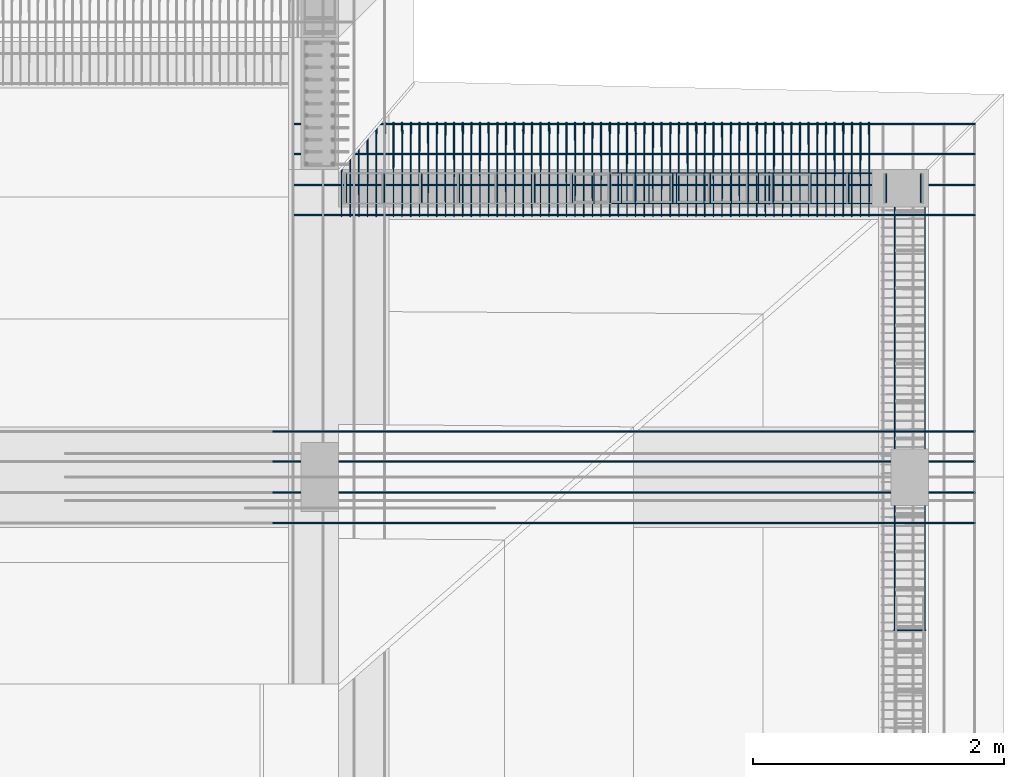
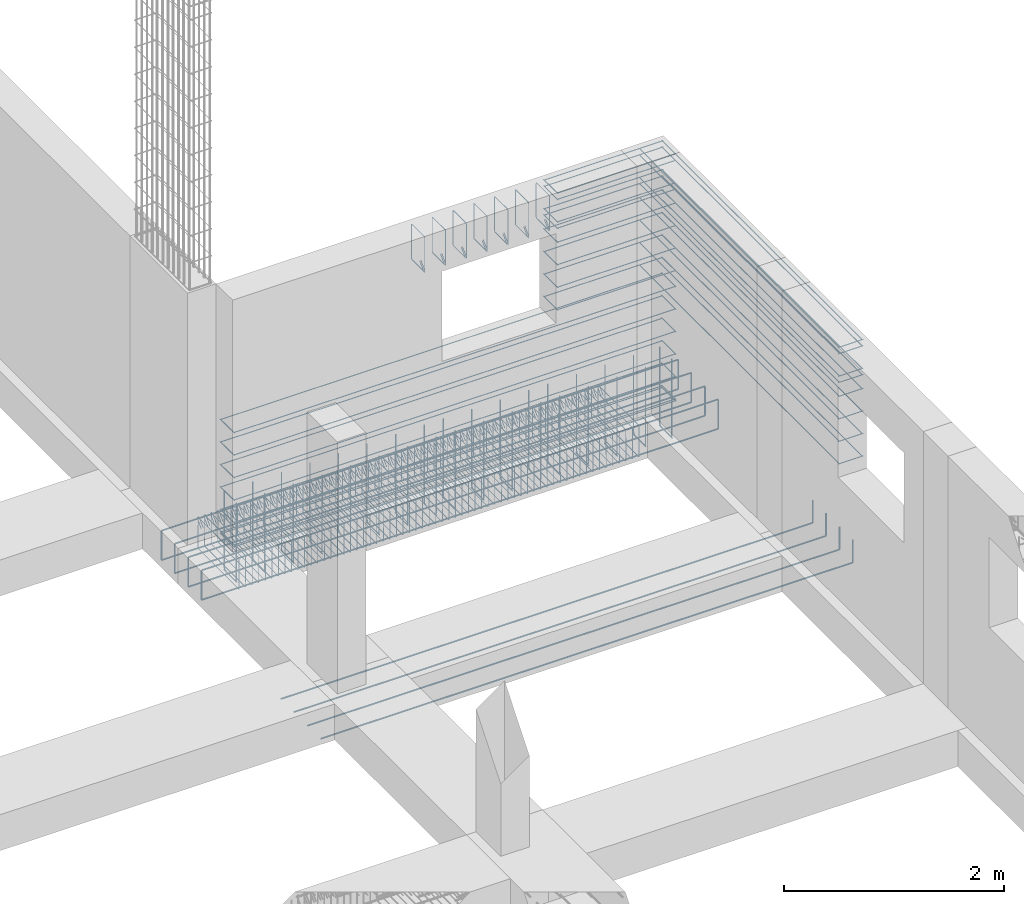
# One storey, part 14 of 15: 8 reinforcing bars.
"""IFC4 building model written with IfcOpenShell, lengths in metres."""

from ifc_helpers import new_model, entity, si_unit, origin_with_axes, place, context, project, spatial, source, transform, mapped, element, save


model = new_model("IFC4")

# Units and contexts
model_context = context("Model", 3, precision=1e-05, world=origin_with_axes())
ifc_project = project(units=[si_unit("LENGTHUNIT", "METRE"), si_unit("AREAUNIT", "SQUARE_METRE"), si_unit("VOLUMEUNIT", "CUBIC_METRE"), si_unit("MASSUNIT", "GRAM", prefix="KILO"), si_unit("TIMEUNIT", "SECOND"), si_unit("PLANEANGLEUNIT", "RADIAN"), si_unit("SOLIDANGLEUNIT", "STERADIAN"), si_unit("THERMODYNAMICTEMPERATUREUNIT", "DEGREE_CELSIUS")], contexts=[model_context])

# Site, building, storey
placement_1 = place(None, origin_with_axes())
site = spatial("IfcSite", under=ifc_project, at=placement_1, Name="Italia", CompositionType="ELEMENT")
building = spatial("IfcBuilding", under=site, at=placement_1, Name="Bifamiliare", CompositionType="ELEMENT")
storey = spatial("IfcBuildingStorey", under=building, at=placement_1, Name="Storey 0", CompositionType="ELEMENT", Elevation=0.0)

# Reinforcing bars
shared_shape_1 = source(origin_with_axes(), model_context, "Body", "AdvancedSweptSolid", [
    entity("IfcSweptDiskSolid", entity("IfcIndexedPolyCurve", entity("IfcCartesianPointList3D", [[15.22, 11.52, 1.475], [15.46, 11.52, 1.475], [15.4638, 11.5192, 1.475], [15.4671, 11.5171, 1.475], [15.4692, 11.5138, 1.475], [15.47, 11.51, 1.475], [15.47, 7.89, 1.475], [15.4692, 7.88617, 1.475], [15.4671, 7.88293, 1.475], [15.4638, 7.88076, 1.475], [15.46, 7.88, 1.475], [15.22, 7.88, 1.475]]), [entity("IfcLineIndex", [1, 2]), entity("IfcLineIndex", [2, 3]), entity("IfcLineIndex", [3, 4]), entity("IfcLineIndex", [4, 5]), entity("IfcLineIndex", [5, 6]), entity("IfcLineIndex", [6, 7]), entity("IfcLineIndex", [7, 8]), entity("IfcLineIndex", [8, 9]), entity("IfcLineIndex", [9, 10]), entity("IfcLineIndex", [10, 11]), entity("IfcLineIndex", [11, 12])], False), 0.005),
])
placement_2 = place(placement_1, origin_with_axes())
reinforcing_bar_1_placement = place(placement_2, origin_with_axes())
element("IfcReinforcingBar", 1, at=reinforcing_bar_1_placement, inside=storey, BarLength=4.13121, CrossSectionArea=7.854e-05, NominalDiameter=0.01, context=model_context, shape_type="MappedRepresentation", body=[
    mapped(shared_shape_1, transform((0.0, 0.0, 0.5), x_axis=(1.0, 0.0, 0.0), y_axis=(0.0, 1.0, 0.0), z_axis=(0.0, 0.0, 1.0), scale=1.0)),
    mapped(shared_shape_1, transform((0.0, 0.0, 0.75), x_axis=(1.0, 0.0, 0.0), y_axis=(0.0, 1.0, 0.0), z_axis=(0.0, 0.0, 1.0), scale=1.0)),
    mapped(shared_shape_1, transform((30.7, 19.4, 0.0), x_axis=(-1.0, 0.0, 0.0), y_axis=(0.0, -1.0, 0.0), z_axis=(0.0, 0.0, 1.0), scale=1.0)),
    mapped(shared_shape_1, transform((0.0, 0.0, 0.0), x_axis=(1.0, 0.0, 0.0), y_axis=(0.0, 1.0, 0.0), z_axis=(0.0, 0.0, 1.0), scale=1.0)),
    mapped(shared_shape_1, transform((30.7, 19.4, 0.25), x_axis=(-1.0, 0.0, 0.0), y_axis=(0.0, -1.0, 0.0), z_axis=(0.0, 0.0, 1.0), scale=1.0)),
    mapped(shared_shape_1, transform((0.0, 0.0, 0.25), x_axis=(1.0, 0.0, 0.0), y_axis=(0.0, 1.0, 0.0), z_axis=(0.0, 0.0, 1.0), scale=1.0)),
    mapped(shared_shape_1, transform((30.7, 19.4, 0.5), x_axis=(-1.0, 0.0, 0.0), y_axis=(0.0, -1.0, 0.0), z_axis=(0.0, 0.0, 1.0), scale=1.0)),
    mapped(shared_shape_1, transform((30.7, 19.4, 0.75), x_axis=(-1.0, 0.0, 0.0), y_axis=(0.0, -1.0, 0.0), z_axis=(0.0, 0.0, 1.0), scale=1.0)),
    mapped(shared_shape_1, transform((0.0, 0.0, 1.225), x_axis=(1.0, 0.0, 0.0), y_axis=(0.0, 1.0, 0.0), z_axis=(0.0, 0.0, 1.0), scale=1.0)),
    mapped(shared_shape_1, transform((0.0, 0.0, 1.295), x_axis=(1.0, 0.0, 0.0), y_axis=(0.0, 1.0, 0.0), z_axis=(0.0, 0.0, 1.0), scale=1.0)),
    mapped(shared_shape_1, transform((30.7, 19.4, 0.905), x_axis=(-1.0, 0.0, 0.0), y_axis=(0.0, -1.0, 0.0), z_axis=(0.0, 0.0, 1.0), scale=1.0)),
    mapped(shared_shape_1, transform((0.0, 0.0, 0.905), x_axis=(1.0, 0.0, 0.0), y_axis=(0.0, 1.0, 0.0), z_axis=(0.0, 0.0, 1.0), scale=1.0)),
    mapped(shared_shape_1, transform((30.7, 19.4, 0.975), x_axis=(-1.0, 0.0, 0.0), y_axis=(0.0, -1.0, 0.0), z_axis=(0.0, 0.0, 1.0), scale=1.0)),
    mapped(shared_shape_1, transform((0.0, 0.0, 0.975), x_axis=(1.0, 0.0, 0.0), y_axis=(0.0, 1.0, 0.0), z_axis=(0.0, 0.0, 1.0), scale=1.0)),
    mapped(shared_shape_1, transform((30.7, 19.4, 1.225), x_axis=(-1.0, 0.0, 0.0), y_axis=(0.0, -1.0, 0.0), z_axis=(0.0, 0.0, 1.0), scale=1.0)),
    mapped(shared_shape_1, transform((30.7, 19.4, 1.295), x_axis=(-1.0, 0.0, 0.0), y_axis=(0.0, -1.0, 0.0), z_axis=(0.0, 0.0, 1.0), scale=1.0)),
])
shared_shape_2 = source(origin_with_axes(), model_context, "Body", "AdvancedSweptSolid", [
    entity("IfcSweptDiskSolid", entity("IfcIndexedPolyCurve", entity("IfcCartesianPointList3D", [[15.438, 11.509, 0.5], [15.438, 11.509, -0.345], [15.438, 11.5067, -0.356481], [15.438, 11.5002, -0.366213], [15.438, 11.4905, -0.372716], [15.438, 11.479, -0.375], [15.438, 11.283, -0.375]]), [entity("IfcLineIndex", [1, 2]), entity("IfcLineIndex", [2, 3]), entity("IfcLineIndex", [3, 4]), entity("IfcLineIndex", [4, 5]), entity("IfcLineIndex", [5, 6]), entity("IfcLineIndex", [6, 7])], False), 0.006),
])
reinforcing_bar_2_placement = place(placement_2, origin_with_axes())
element("IfcReinforcingBar", 2, at=reinforcing_bar_2_placement, inside=storey, BarLength=1.08782, CrossSectionArea=0.0001131, NominalDiameter=0.012, context=model_context, shape_type="MappedRepresentation", body=[
    mapped(shared_shape_2, transform((-2.476, 0.0, 0.0), x_axis=(1.0, 0.0, 0.0), y_axis=(0.0, 1.0, 0.0), z_axis=(0.0, 0.0, 1.0), scale=1.0)),
    mapped(shared_shape_2, transform((28.6, 22.8, 0.0), x_axis=(-1.0, 0.0, 0.0), y_axis=(0.0, -1.0, 0.0), z_axis=(0.0, 0.0, 1.0), scale=1.0)),
    mapped(shared_shape_2, transform((-3.376, 0.0, 0.0), x_axis=(1.0, 0.0, 0.0), y_axis=(0.0, 1.0, 0.0), z_axis=(0.0, 0.0, 1.0), scale=1.0)),
    mapped(shared_shape_2, transform((27.8, 22.8, 0.0), x_axis=(-1.0, 0.0, 0.0), y_axis=(0.0, -1.0, 0.0), z_axis=(0.0, 0.0, 1.0), scale=1.0)),
    mapped(shared_shape_2, transform((-3.076, 0.0, 0.0), x_axis=(1.0, 0.0, 0.0), y_axis=(0.0, 1.0, 0.0), z_axis=(0.0, 0.0, 1.0), scale=1.0)),
    mapped(shared_shape_2, transform((28.1, 22.8, 0.0), x_axis=(-1.0, 0.0, 0.0), y_axis=(0.0, -1.0, 0.0), z_axis=(0.0, 0.0, 1.0), scale=1.0)),
    mapped(shared_shape_2, transform((-2.776, 0.0, 0.0), x_axis=(1.0, 0.0, 0.0), y_axis=(0.0, 1.0, 0.0), z_axis=(0.0, 0.0, 1.0), scale=1.0)),
    mapped(shared_shape_2, transform((28.4, 22.8, 0.0), x_axis=(-1.0, 0.0, 0.0), y_axis=(0.0, -1.0, 0.0), z_axis=(0.0, 0.0, 1.0), scale=1.0)),
    mapped(shared_shape_2, transform((-3.676, 0.0, 0.0), x_axis=(1.0, 0.0, 0.0), y_axis=(0.0, 1.0, 0.0), z_axis=(0.0, 0.0, 1.0), scale=1.0)),
    mapped(shared_shape_2, transform((27.5, 22.8, 0.0), x_axis=(-1.0, 0.0, 0.0), y_axis=(0.0, -1.0, 0.0), z_axis=(0.0, 0.0, 1.0), scale=1.0)),
    mapped(shared_shape_2, transform((-4.576, 0.0, 0.0), x_axis=(1.0, 0.0, 0.0), y_axis=(0.0, 1.0, 0.0), z_axis=(0.0, 0.0, 1.0), scale=1.0)),
    mapped(shared_shape_2, transform((26.6, 22.8, 0.0), x_axis=(-1.0, 0.0, 0.0), y_axis=(0.0, -1.0, 0.0), z_axis=(0.0, 0.0, 1.0), scale=1.0)),
    mapped(shared_shape_2, transform((-4.276, 0.0, 0.0), x_axis=(1.0, 0.0, 0.0), y_axis=(0.0, 1.0, 0.0), z_axis=(0.0, 0.0, 1.0), scale=1.0)),
    mapped(shared_shape_2, transform((26.9, 22.8, 0.0), x_axis=(-1.0, 0.0, 0.0), y_axis=(0.0, -1.0, 0.0), z_axis=(0.0, 0.0, 1.0), scale=1.0)),
    mapped(shared_shape_2, transform((-3.976, 0.0, 0.0), x_axis=(1.0, 0.0, 0.0), y_axis=(0.0, 1.0, 0.0), z_axis=(0.0, 0.0, 1.0), scale=1.0)),
    mapped(shared_shape_2, transform((27.2, 22.8, 0.0), x_axis=(-1.0, 0.0, 0.0), y_axis=(0.0, -1.0, 0.0), z_axis=(0.0, 0.0, 1.0), scale=1.0)),
    mapped(shared_shape_2, transform((0.0, 0.0, 0.0), x_axis=(1.0, 0.0, 0.0), y_axis=(0.0, 1.0, 0.0), z_axis=(0.0, 0.0, 1.0), scale=1.0)),
    mapped(shared_shape_2, transform((26.3, 22.8, 0.0), x_axis=(-1.0, 0.0, 0.0), y_axis=(0.0, -1.0, 0.0), z_axis=(0.0, 0.0, 1.0), scale=1.0)),
    mapped(shared_shape_2, transform((-0.876, 0.0, 0.0), x_axis=(1.0, 0.0, 0.0), y_axis=(0.0, 1.0, 0.0), z_axis=(0.0, 0.0, 1.0), scale=1.0)),
    mapped(shared_shape_2, transform((30.3, 22.8, 0.0), x_axis=(-1.0, 0.0, 0.0), y_axis=(0.0, -1.0, 0.0), z_axis=(0.0, 0.0, 1.0), scale=1.0)),
    mapped(shared_shape_2, transform((-0.576001, 0.0, 0.0), x_axis=(1.0, 0.0, 0.0), y_axis=(0.0, 1.0, 0.0), z_axis=(0.0, 0.0, 1.0), scale=1.0)),
    mapped(shared_shape_2, transform((30.6, 22.8, 0.0), x_axis=(-1.0, 0.0, 0.0), y_axis=(0.0, -1.0, 0.0), z_axis=(0.0, 0.0, 1.0), scale=1.0)),
    mapped(shared_shape_2, transform((-0.276001, 0.0, 0.0), x_axis=(1.0, 0.0, 0.0), y_axis=(0.0, 1.0, 0.0), z_axis=(0.0, 0.0, 1.0), scale=1.0)),
    mapped(shared_shape_2, transform((30.876, 22.8, 0.0), x_axis=(-1.0, 0.0, 0.0), y_axis=(0.0, -1.0, 0.0), z_axis=(0.0, 0.0, 1.0), scale=1.0)),
    mapped(shared_shape_2, transform((-1.176, 0.0, 0.0), x_axis=(1.0, 0.0, 0.0), y_axis=(0.0, 1.0, 0.0), z_axis=(0.0, 0.0, 1.0), scale=1.0)),
    mapped(shared_shape_2, transform((30.0, 22.8, 0.0), x_axis=(-1.0, 0.0, 0.0), y_axis=(0.0, -1.0, 0.0), z_axis=(0.0, 0.0, 1.0), scale=1.0)),
    mapped(shared_shape_2, transform((-1.976, 0.0, 0.0), x_axis=(1.0, 0.0, 0.0), y_axis=(0.0, 1.0, 0.0), z_axis=(0.0, 0.0, 1.0), scale=1.0)),
    mapped(shared_shape_2, transform((29.2, 22.8, 0.0), x_axis=(-1.0, 0.0, 0.0), y_axis=(0.0, -1.0, 0.0), z_axis=(0.0, 0.0, 1.0), scale=1.0)),
    mapped(shared_shape_2, transform((-1.676, 0.0, 0.0), x_axis=(1.0, 0.0, 0.0), y_axis=(0.0, 1.0, 0.0), z_axis=(0.0, 0.0, 1.0), scale=1.0)),
    mapped(shared_shape_2, transform((29.5, 22.8, 0.0), x_axis=(-1.0, 0.0, 0.0), y_axis=(0.0, -1.0, 0.0), z_axis=(0.0, 0.0, 1.0), scale=1.0)),
    mapped(shared_shape_2, transform((-1.376, 0.0, 0.0), x_axis=(1.0, 0.0, 0.0), y_axis=(0.0, 1.0, 0.0), z_axis=(0.0, 0.0, 1.0), scale=1.0)),
    mapped(shared_shape_2, transform((29.7, 22.8, 0.0), x_axis=(-1.0, 0.0, 0.0), y_axis=(0.0, -1.0, 0.0), z_axis=(0.0, 0.0, 1.0), scale=1.0)),
    mapped(shared_shape_2, transform((-2.276, 0.0, 0.0), x_axis=(1.0, 0.0, 0.0), y_axis=(0.0, 1.0, 0.0), z_axis=(0.0, 0.0, 1.0), scale=1.0)),
    mapped(shared_shape_2, transform((28.9, 22.8, 0.0), x_axis=(-1.0, 0.0, 0.0), y_axis=(0.0, -1.0, 0.0), z_axis=(0.0, 0.0, 1.0), scale=1.0)),
])
shared_shape_3 = source(origin_with_axes(), model_context, "Body", "AdvancedSweptSolid", [
    entity("IfcSweptDiskSolid", entity("IfcIndexedPolyCurve", entity("IfcCartesianPointList3D", [[15.47, 11.53, 0.03], [15.47, 11.29, 0.03], [15.4692, 11.2862, 0.03], [15.4671, 11.2829, 0.03], [15.4638, 11.2808, 0.03], [15.46, 11.28, 0.03], [10.84, 11.28, 0.03], [10.8362, 11.2808, 0.03], [10.8329, 11.2829, 0.03], [10.8308, 11.2862, 0.03], [10.83, 11.29, 0.03], [10.83, 11.53, 0.03]]), [entity("IfcLineIndex", [1, 2]), entity("IfcLineIndex", [2, 3]), entity("IfcLineIndex", [3, 4]), entity("IfcLineIndex", [4, 5]), entity("IfcLineIndex", [5, 6]), entity("IfcLineIndex", [6, 7]), entity("IfcLineIndex", [7, 8]), entity("IfcLineIndex", [8, 9]), entity("IfcLineIndex", [9, 10]), entity("IfcLineIndex", [10, 11]), entity("IfcLineIndex", [11, 12])], False), 0.005),
])
reinforcing_bar_3_placement = place(placement_2, origin_with_axes())
element("IfcReinforcingBar", 3, at=reinforcing_bar_3_placement, inside=storey, BarLength=5.13121, CrossSectionArea=7.854e-05, NominalDiameter=0.01, context=model_context, shape_type="MappedRepresentation", body=[
    mapped(shared_shape_3, transform((0.0, 0.0, 0.77), x_axis=(1.0, 0.0, 0.0), y_axis=(0.0, 1.0, 0.0), z_axis=(0.0, 0.0, 1.0), scale=1.0)),
    mapped(shared_shape_3, transform((0.0, 0.0, 0.02), x_axis=(1.0, 0.0, 0.0), y_axis=(0.0, 1.0, 0.0), z_axis=(0.0, 0.0, 1.0), scale=1.0)),
    mapped(shared_shape_3, transform((0.0, 0.0, 0.0), x_axis=(1.0, 0.0, 0.0), y_axis=(0.0, 1.0, 0.0), z_axis=(0.0, 0.0, 1.0), scale=1.0)),
    mapped(shared_shape_3, transform((26.3, 22.8, 0.27), x_axis=(-1.0, 0.0, 0.0), y_axis=(0.0, -1.0, 0.0), z_axis=(0.0, 0.0, 1.0), scale=1.0)),
    mapped(shared_shape_3, transform((0.0, 0.0, 1.27), x_axis=(1.0, 0.0, 0.0), y_axis=(0.0, 1.0, 0.0), z_axis=(0.0, 0.0, 1.0), scale=1.0)),
    mapped(shared_shape_3, transform((0.0, 0.0, 0.27), x_axis=(1.0, 0.0, 0.0), y_axis=(0.0, 1.0, 0.0), z_axis=(0.0, 0.0, 1.0), scale=1.0)),
    mapped(shared_shape_3, transform((26.3, 22.8, 0.52), x_axis=(-1.0, 0.0, 0.0), y_axis=(0.0, -1.0, 0.0), z_axis=(0.0, 0.0, 1.0), scale=1.0)),
    mapped(shared_shape_3, transform((0.0, 0.0, 1.02), x_axis=(1.0, 0.0, 0.0), y_axis=(0.0, 1.0, 0.0), z_axis=(0.0, 0.0, 1.0), scale=1.0)),
    mapped(shared_shape_3, transform((26.3, 22.8, 0.0), x_axis=(-1.0, 0.0, 0.0), y_axis=(0.0, -1.0, 0.0), z_axis=(0.0, 0.0, 1.0), scale=1.0)),
    mapped(shared_shape_3, transform((26.3, 22.8, 0.02), x_axis=(-1.0, 0.0, 0.0), y_axis=(0.0, -1.0, 0.0), z_axis=(0.0, 0.0, 1.0), scale=1.0)),
    mapped(shared_shape_3, transform((0.0, 0.0, 0.52), x_axis=(1.0, 0.0, 0.0), y_axis=(0.0, 1.0, 0.0), z_axis=(0.0, 0.0, 1.0), scale=1.0)),
    mapped(shared_shape_3, transform((26.3, 22.8, 1.27), x_axis=(-1.0, 0.0, 0.0), y_axis=(0.0, -1.0, 0.0), z_axis=(0.0, 0.0, 1.0), scale=1.0)),
    mapped(shared_shape_3, transform((26.3, 22.8, 0.77), x_axis=(-1.0, 0.0, 0.0), y_axis=(0.0, -1.0, 0.0), z_axis=(0.0, 0.0, 1.0), scale=1.0)),
    mapped(shared_shape_3, transform((26.3, 22.8, 1.02), x_axis=(-1.0, 0.0, 0.0), y_axis=(0.0, -1.0, 0.0), z_axis=(0.0, 0.0, 1.0), scale=1.0)),
])
shared_shape_4 = source(origin_with_axes(), model_context, "Body", "AdvancedSweptSolid", [
    entity("IfcSweptDiskSolid", entity("IfcIndexedPolyCurve", entity("IfcCartesianPointList3D", [[15.47, 11.53, 1.475], [15.47, 11.29, 1.475], [15.4692, 11.2862, 1.475], [15.4671, 11.2829, 1.475], [15.4638, 11.2808, 1.475], [15.46, 11.28, 1.475], [14.24, 11.28, 1.475], [14.2362, 11.2808, 1.475], [14.2329, 11.2829, 1.475], [14.2308, 11.2862, 1.475], [14.23, 11.29, 1.475], [14.23, 11.53, 1.475]]), [entity("IfcLineIndex", [1, 2]), entity("IfcLineIndex", [2, 3]), entity("IfcLineIndex", [3, 4]), entity("IfcLineIndex", [4, 5]), entity("IfcLineIndex", [5, 6]), entity("IfcLineIndex", [6, 7]), entity("IfcLineIndex", [7, 8]), entity("IfcLineIndex", [8, 9]), entity("IfcLineIndex", [9, 10]), entity("IfcLineIndex", [10, 11]), entity("IfcLineIndex", [11, 12])], False), 0.005),
])
reinforcing_bar_4_placement = place(placement_2, origin_with_axes())
element("IfcReinforcingBar", 4, at=reinforcing_bar_4_placement, inside=storey, BarLength=1.73122, CrossSectionArea=7.854e-05, NominalDiameter=0.01, context=model_context, shape_type="MappedRepresentation", body=[
    mapped(shared_shape_4, transform((0.0, 0.0, 0.5), x_axis=(1.0, 0.0, 0.0), y_axis=(0.0, 1.0, 0.0), z_axis=(0.0, 0.0, 1.0), scale=1.0)),
    mapped(shared_shape_4, transform((0.0, 0.0, 0.75), x_axis=(1.0, 0.0, 0.0), y_axis=(0.0, 1.0, 0.0), z_axis=(0.0, 0.0, 1.0), scale=1.0)),
    mapped(shared_shape_4, transform((29.7, 22.8, 0.0), x_axis=(-1.0, 0.0, 0.0), y_axis=(0.0, -1.0, 0.0), z_axis=(0.0, 0.0, 1.0), scale=1.0)),
    mapped(shared_shape_4, transform((0.0, 0.0, 0.0), x_axis=(1.0, 0.0, 0.0), y_axis=(0.0, 1.0, 0.0), z_axis=(0.0, 0.0, 1.0), scale=1.0)),
    mapped(shared_shape_4, transform((29.7, 22.8, 0.25), x_axis=(-1.0, 0.0, 0.0), y_axis=(0.0, -1.0, 0.0), z_axis=(0.0, 0.0, 1.0), scale=1.0)),
    mapped(shared_shape_4, transform((0.0, 0.0, 0.25), x_axis=(1.0, 0.0, 0.0), y_axis=(0.0, 1.0, 0.0), z_axis=(0.0, 0.0, 1.0), scale=1.0)),
    mapped(shared_shape_4, transform((29.7, 22.8, 0.5), x_axis=(-1.0, 0.0, 0.0), y_axis=(0.0, -1.0, 0.0), z_axis=(0.0, 0.0, 1.0), scale=1.0)),
    mapped(shared_shape_4, transform((29.7, 22.8, 0.75), x_axis=(-1.0, 0.0, 0.0), y_axis=(0.0, -1.0, 0.0), z_axis=(0.0, 0.0, 1.0), scale=1.0)),
    mapped(shared_shape_4, transform((0.0, 0.0, 1.225), x_axis=(1.0, 0.0, 0.0), y_axis=(0.0, 1.0, 0.0), z_axis=(0.0, 0.0, 1.0), scale=1.0)),
    mapped(shared_shape_4, transform((0.0, 0.0, 1.295), x_axis=(1.0, 0.0, 0.0), y_axis=(0.0, 1.0, 0.0), z_axis=(0.0, 0.0, 1.0), scale=1.0)),
    mapped(shared_shape_4, transform((29.7, 22.8, 0.905), x_axis=(-1.0, 0.0, 0.0), y_axis=(0.0, -1.0, 0.0), z_axis=(0.0, 0.0, 1.0), scale=1.0)),
    mapped(shared_shape_4, transform((0.0, 0.0, 0.905), x_axis=(1.0, 0.0, 0.0), y_axis=(0.0, 1.0, 0.0), z_axis=(0.0, 0.0, 1.0), scale=1.0)),
    mapped(shared_shape_4, transform((29.7, 22.8, 0.975), x_axis=(-1.0, 0.0, 0.0), y_axis=(0.0, -1.0, 0.0), z_axis=(0.0, 0.0, 1.0), scale=1.0)),
    mapped(shared_shape_4, transform((0.0, 0.0, 0.975), x_axis=(1.0, 0.0, 0.0), y_axis=(0.0, 1.0, 0.0), z_axis=(0.0, 0.0, 1.0), scale=1.0)),
    mapped(shared_shape_4, transform((29.7, 22.8, 1.225), x_axis=(-1.0, 0.0, 0.0), y_axis=(0.0, -1.0, 0.0), z_axis=(0.0, 0.0, 1.0), scale=1.0)),
    mapped(shared_shape_4, transform((29.7, 22.8, 1.295), x_axis=(-1.0, 0.0, 0.0), y_axis=(0.0, -1.0, 0.0), z_axis=(0.0, 0.0, 1.0), scale=1.0)),
])
shared_shape_5 = source(origin_with_axes(), model_context, "Body", "AdvancedSweptSolid", [
    entity("IfcSweptDiskSolid", entity("IfcIndexedPolyCurve", entity("IfcCartesianPointList3D", [[14.146, 11.3497, 2.47071], [14.146, 11.2819, 2.40293], [14.146, 11.279, 2.39586], [14.146, 11.279, 2.389], [14.146, 11.2798, 2.38517], [14.146, 11.2819, 2.38193], [14.146, 11.2852, 2.37976], [14.146, 11.289, 2.379], [14.146, 11.511, 2.379], [14.146, 11.5148, 2.37976], [14.146, 11.5181, 2.38193], [14.146, 11.5202, 2.38517], [14.146, 11.521, 2.389], [14.146, 11.521, 2.761], [14.146, 11.5202, 2.76483], [14.146, 11.5181, 2.76807], [14.146, 11.5148, 2.77024], [14.146, 11.511, 2.771], [14.146, 11.289, 2.771], [14.146, 11.2852, 2.77024], [14.146, 11.2819, 2.76807], [14.146, 11.2798, 2.76483], [14.146, 11.279, 2.761], [14.146, 11.279, 2.389], [14.146, 11.2798, 2.38517], [14.146, 11.2819, 2.38193], [14.146, 11.2852, 2.37976], [14.146, 11.289, 2.379], [14.146, 11.2959, 2.379], [14.146, 11.3029, 2.38193], [14.146, 11.3707, 2.44971]]), [entity("IfcLineIndex", [1, 2]), entity("IfcLineIndex", [2, 3]), entity("IfcLineIndex", [3, 4]), entity("IfcLineIndex", [4, 5]), entity("IfcLineIndex", [5, 6]), entity("IfcLineIndex", [6, 7]), entity("IfcLineIndex", [7, 8]), entity("IfcLineIndex", [8, 9]), entity("IfcLineIndex", [9, 10]), entity("IfcLineIndex", [10, 11]), entity("IfcLineIndex", [11, 12]), entity("IfcLineIndex", [12, 13]), entity("IfcLineIndex", [13, 14]), entity("IfcLineIndex", [14, 15]), entity("IfcLineIndex", [15, 16]), entity("IfcLineIndex", [16, 17]), entity("IfcLineIndex", [17, 18]), entity("IfcLineIndex", [18, 19]), entity("IfcLineIndex", [19, 20]), entity("IfcLineIndex", [20, 21]), entity("IfcLineIndex", [21, 22]), entity("IfcLineIndex", [22, 23]), entity("IfcLineIndex", [23, 24]), entity("IfcLineIndex", [24, 25]), entity("IfcLineIndex", [25, 26]), entity("IfcLineIndex", [26, 27]), entity("IfcLineIndex", [27, 28]), entity("IfcLineIndex", [28, 29]), entity("IfcLineIndex", [29, 30]), entity("IfcLineIndex", [30, 31])], False), 0.004),
])
reinforcing_bar_5_placement = place(placement_2, origin_with_axes())
element("IfcReinforcingBar", 5, at=reinforcing_bar_5_placement, inside=storey, BarLength=1.48678, CrossSectionArea=5.0265e-05, NominalDiameter=0.008, context=model_context, shape_type="MappedRepresentation", body=[
    mapped(shared_shape_5, transform((0.0, 0.0, 0.0), x_axis=(1.0, 0.0, 0.0), y_axis=(0.0, 1.0, 0.0), z_axis=(0.0, 0.0, 1.0), scale=1.0)),
    mapped(shared_shape_5, transform((-0.4368, 0.0, 0.0), x_axis=(1.0, 0.0, 0.0), y_axis=(0.0, 1.0, 0.0), z_axis=(0.0, 0.0, 1.0), scale=1.0)),
    mapped(shared_shape_5, transform((-0.2184, 0.0, 0.0), x_axis=(1.0, 0.0, 0.0), y_axis=(0.0, 1.0, 0.0), z_axis=(0.0, 0.0, 1.0), scale=1.0)),
    mapped(shared_shape_5, transform((-0.6552, 0.0, 0.0), x_axis=(1.0, 0.0, 0.0), y_axis=(0.0, 1.0, 0.0), z_axis=(0.0, 0.0, 1.0), scale=1.0)),
    mapped(shared_shape_5, transform((-1.092, 0.0, 0.0), x_axis=(1.0, 0.0, 0.0), y_axis=(0.0, 1.0, 0.0), z_axis=(0.0, 0.0, 1.0), scale=1.0)),
    mapped(shared_shape_5, transform((-0.8736, 0.0, 0.0), x_axis=(1.0, 0.0, 0.0), y_axis=(0.0, 1.0, 0.0), z_axis=(0.0, 0.0, 1.0), scale=1.0)),
    mapped(shared_shape_5, transform((-1.3104, 0.0, 0.0), x_axis=(1.0, 0.0, 0.0), y_axis=(0.0, 1.0, 0.0), z_axis=(0.0, 0.0, 1.0), scale=1.0)),
])
shared_shape_6 = source(origin_with_axes(), model_context, "Body", "AdvancedSweptSolid", [
    entity("IfcSweptDiskSolid", entity("IfcIndexedPolyCurve", entity("IfcCartesianPointList3D", [[10.2742, 8.736, -0.364], [10.8, 8.736, -0.364], [15.855, 8.736, -0.364], [15.8588, 8.736, -0.363239], [15.8621, 8.736, -0.361071], [15.8642, 8.736, -0.357827], [15.865, 8.736, -0.354], [15.865, 8.736, -0.114]]), [entity("IfcLineIndex", [1, 2]), entity("IfcLineIndex", [2, 3]), entity("IfcLineIndex", [3, 4]), entity("IfcLineIndex", [4, 5]), entity("IfcLineIndex", [5, 6]), entity("IfcLineIndex", [6, 7]), entity("IfcLineIndex", [7, 8])], False), 0.008),
])
reinforcing_bar_6_placement = place(placement_2, origin_with_axes())
element("IfcReinforcingBar", 6, at=reinforcing_bar_6_placement, inside=storey, BarLength=5.83642, CrossSectionArea=0.00020106, NominalDiameter=0.016, context=model_context, shape_type="MappedRepresentation", body=[
    mapped(shared_shape_6, transform((0.0, 0.728, 0.0), x_axis=(1.0, 0.0, 0.0), y_axis=(0.0, 1.0, 0.0), z_axis=(0.0, 0.0, 1.0), scale=1.0)),
    mapped(shared_shape_6, transform((0.0, 0.0, 0.0), x_axis=(1.0, 0.0, 0.0), y_axis=(0.0, 1.0, 0.0), z_axis=(0.0, 0.0, 1.0), scale=1.0)),
    mapped(shared_shape_6, transform((0.0, 0.488, 0.0), x_axis=(1.0, 0.0, 0.0), y_axis=(0.0, 1.0, 0.0), z_axis=(0.0, 0.0, 1.0), scale=1.0)),
    mapped(shared_shape_6, transform((0.0, 0.24, 0.0), x_axis=(1.0, 0.0, 0.0), y_axis=(0.0, 1.0, 0.0), z_axis=(0.0, 0.0, 1.0), scale=1.0)),
])
shared_shape_7 = source(origin_with_axes(), model_context, "Body", "AdvancedSweptSolid", [
    entity("IfcSweptDiskSolid", entity("IfcIndexedPolyCurve", entity("IfcCartesianPointList3D", [[10.82, 11.8553, -0.115711], [10.8203, 11.9231, -0.0479289], [10.8204, 11.926, -0.0408578], [10.8204, 11.926, -0.034], [10.8204, 11.9252, -0.0301732], [10.8204, 11.9231, -0.0269289], [10.8204, 11.9198, -0.0247612], [10.8205, 11.916, -0.024], [10.8231, 11.184, -0.024], [10.8231, 11.1802, -0.0247612], [10.8231, 11.1769, -0.0269289], [10.8231, 11.1748, -0.0301732], [10.8231, 11.174, -0.034], [10.8243, 11.174, -0.366], [10.8244, 11.1748, -0.369827], [10.8244, 11.1769, -0.373071], [10.8244, 11.1802, -0.375239], [10.8244, 11.184, -0.376], [10.827, 11.916, -0.376], [10.8271, 11.9198, -0.375239], [10.8271, 11.9231, -0.373071], [10.8271, 11.9252, -0.369827], [10.8271, 11.926, -0.366], [10.8283, 11.926, -0.034], [10.8283, 11.9252, -0.0301732], [10.8283, 11.9231, -0.0269289], [10.8283, 11.9198, -0.0247612], [10.8283, 11.916, -0.024], [10.8284, 11.9091, -0.024], [10.8284, 11.9021, -0.0269289], [10.8287, 11.8343, -0.0947113]]), [entity("IfcLineIndex", [1, 2]), entity("IfcLineIndex", [2, 3]), entity("IfcLineIndex", [3, 4]), entity("IfcLineIndex", [4, 5]), entity("IfcLineIndex", [5, 6]), entity("IfcLineIndex", [6, 7]), entity("IfcLineIndex", [7, 8]), entity("IfcLineIndex", [8, 9]), entity("IfcLineIndex", [9, 10]), entity("IfcLineIndex", [10, 11]), entity("IfcLineIndex", [11, 12]), entity("IfcLineIndex", [12, 13]), entity("IfcLineIndex", [13, 14]), entity("IfcLineIndex", [14, 15]), entity("IfcLineIndex", [15, 16]), entity("IfcLineIndex", [16, 17]), entity("IfcLineIndex", [17, 18]), entity("IfcLineIndex", [18, 19]), entity("IfcLineIndex", [19, 20]), entity("IfcLineIndex", [20, 21]), entity("IfcLineIndex", [21, 22]), entity("IfcLineIndex", [22, 23]), entity("IfcLineIndex", [23, 24]), entity("IfcLineIndex", [24, 25]), entity("IfcLineIndex", [25, 26]), entity("IfcLineIndex", [26, 27]), entity("IfcLineIndex", [27, 28]), entity("IfcLineIndex", [28, 29]), entity("IfcLineIndex", [29, 30]), entity("IfcLineIndex", [30, 31])], False), 0.004),
])
reinforcing_bar_7_placement = place(placement_2, origin_with_axes())
element("IfcReinforcingBar", 7, at=reinforcing_bar_7_placement, inside=storey, BarLength=2.42679, CrossSectionArea=5.0265e-05, NominalDiameter=0.008, context=model_context, shape_type="MappedRepresentation", body=[
    mapped(shared_shape_7, transform((2.96206, 0.0, 0.0), x_axis=(1.0, 0.0, 0.0), y_axis=(0.0, 1.0, 0.0), z_axis=(0.0, 0.0, 1.0), scale=1.0)),
    mapped(shared_shape_7, transform((2.89318, 0.0, 0.0), x_axis=(1.0, 0.0, 0.0), y_axis=(0.0, 1.0, 0.0), z_axis=(0.0, 0.0, 1.0), scale=1.0)),
    mapped(shared_shape_7, transform((3.03095, 0.0, 0.0), x_axis=(1.0, 0.0, 0.0), y_axis=(0.0, 1.0, 0.0), z_axis=(0.0, 0.0, 1.0), scale=1.0)),
    mapped(shared_shape_7, transform((2.13544, 0.0, 0.0), x_axis=(1.0, 0.0, 0.0), y_axis=(0.0, 1.0, 0.0), z_axis=(0.0, 0.0, 1.0), scale=1.0)),
    mapped(shared_shape_7, transform((3.09984, 0.0, 0.0), x_axis=(1.0, 0.0, 0.0), y_axis=(0.0, 1.0, 0.0), z_axis=(0.0, 0.0, 1.0), scale=1.0)),
    mapped(shared_shape_7, transform((2.20433, 0.0, 0.0), x_axis=(1.0, 0.0, 0.0), y_axis=(0.0, 1.0, 0.0), z_axis=(0.0, 0.0, 1.0), scale=1.0)),
    mapped(shared_shape_7, transform((2.41098, 0.0, 0.0), x_axis=(1.0, 0.0, 0.0), y_axis=(0.0, 1.0, 0.0), z_axis=(0.0, 0.0, 1.0), scale=1.0)),
    mapped(shared_shape_7, transform((2.82429, 0.0, 0.0), x_axis=(1.0, 0.0, 0.0), y_axis=(0.0, 1.0, 0.0), z_axis=(0.0, 0.0, 1.0), scale=1.0)),
    mapped(shared_shape_7, transform((2.47987, 0.0, 0.0), x_axis=(1.0, 0.0, 0.0), y_axis=(0.0, 1.0, 0.0), z_axis=(0.0, 0.0, 1.0), scale=1.0)),
    mapped(shared_shape_7, transform((2.61764, 0.0, 0.0), x_axis=(1.0, 0.0, 0.0), y_axis=(0.0, 1.0, 0.0), z_axis=(0.0, 0.0, 1.0), scale=1.0)),
    mapped(shared_shape_7, transform((2.54875, 0.0, 0.0), x_axis=(1.0, 0.0, 0.0), y_axis=(0.0, 1.0, 0.0), z_axis=(0.0, 0.0, 1.0), scale=1.0)),
    mapped(shared_shape_7, transform((2.68652, 0.0, 0.0), x_axis=(1.0, 0.0, 0.0), y_axis=(0.0, 1.0, 0.0), z_axis=(0.0, 0.0, 1.0), scale=1.0)),
    mapped(shared_shape_7, transform((2.3421, 0.0, 0.0), x_axis=(1.0, 0.0, 0.0), y_axis=(0.0, 1.0, 0.0), z_axis=(0.0, 0.0, 1.0), scale=1.0)),
    mapped(shared_shape_7, transform((2.75541, 0.0, 0.0), x_axis=(1.0, 0.0, 0.0), y_axis=(0.0, 1.0, 0.0), z_axis=(0.0, 0.0, 1.0), scale=1.0)),
    mapped(shared_shape_7, transform((3.99534, 0.0, 0.0), x_axis=(1.0, 0.0, 0.0), y_axis=(0.0, 1.0, 0.0), z_axis=(0.0, 0.0, 1.0), scale=1.0)),
    mapped(shared_shape_7, transform((4.13312, 0.0, 0.0), x_axis=(1.0, 0.0, 0.0), y_axis=(0.0, 1.0, 0.0), z_axis=(0.0, 0.0, 1.0), scale=1.0)),
    mapped(shared_shape_7, transform((4.06423, 0.0, 0.0), x_axis=(1.0, 0.0, 0.0), y_axis=(0.0, 1.0, 0.0), z_axis=(0.0, 0.0, 1.0), scale=1.0)),
    mapped(shared_shape_7, transform((3.16872, 0.0, 0.0), x_axis=(1.0, 0.0, 0.0), y_axis=(0.0, 1.0, 0.0), z_axis=(0.0, 0.0, 1.0), scale=1.0)),
    mapped(shared_shape_7, transform((2.27321, 0.0, 0.0), x_axis=(1.0, 0.0, 0.0), y_axis=(0.0, 1.0, 0.0), z_axis=(0.0, 0.0, 1.0), scale=1.0)),
    mapped(shared_shape_7, transform((3.23761, 0.0, 0.0), x_axis=(1.0, 0.0, 0.0), y_axis=(0.0, 1.0, 0.0), z_axis=(0.0, 0.0, 1.0), scale=1.0)),
    mapped(shared_shape_7, transform((3.92646, 0.0, 0.0), x_axis=(1.0, 0.0, 0.0), y_axis=(0.0, 1.0, 0.0), z_axis=(0.0, 0.0, 1.0), scale=1.0)),
    mapped(shared_shape_7, transform((3.58203, 0.0, 0.0), x_axis=(1.0, 0.0, 0.0), y_axis=(0.0, 1.0, 0.0), z_axis=(0.0, 0.0, 1.0), scale=1.0)),
    mapped(shared_shape_7, transform((3.51315, 0.0, 0.0), x_axis=(1.0, 0.0, 0.0), y_axis=(0.0, 1.0, 0.0), z_axis=(0.0, 0.0, 1.0), scale=1.0)),
    mapped(shared_shape_7, transform((3.65092, 0.0, 0.0), x_axis=(1.0, 0.0, 0.0), y_axis=(0.0, 1.0, 0.0), z_axis=(0.0, 0.0, 1.0), scale=1.0)),
    mapped(shared_shape_7, transform((3.78869, 0.0, 0.0), x_axis=(1.0, 0.0, 0.0), y_axis=(0.0, 1.0, 0.0), z_axis=(0.0, 0.0, 1.0), scale=1.0)),
    mapped(shared_shape_7, transform((3.7198, 0.0, 0.0), x_axis=(1.0, 0.0, 0.0), y_axis=(0.0, 1.0, 0.0), z_axis=(0.0, 0.0, 1.0), scale=1.0)),
    mapped(shared_shape_7, transform((3.85757, 0.0, 0.0), x_axis=(1.0, 0.0, 0.0), y_axis=(0.0, 1.0, 0.0), z_axis=(0.0, 0.0, 1.0), scale=1.0)),
    mapped(shared_shape_7, transform((0.826622, 0.0, 0.0), x_axis=(1.0, 0.0, 0.0), y_axis=(0.0, 1.0, 0.0), z_axis=(0.0, 0.0, 1.0), scale=1.0)),
    mapped(shared_shape_7, transform((3.44426, 0.0, 0.0), x_axis=(1.0, 0.0, 0.0), y_axis=(0.0, 1.0, 0.0), z_axis=(0.0, 0.0, 1.0), scale=1.0)),
    mapped(shared_shape_7, transform((0.895507, 0.0, 0.0), x_axis=(1.0, 0.0, 0.0), y_axis=(0.0, 1.0, 0.0), z_axis=(0.0, 0.0, 1.0), scale=1.0)),
    mapped(shared_shape_7, transform((0.0, 0.0, 0.0), x_axis=(1.0, 0.0, 0.0), y_axis=(0.0, 1.0, 0.0), z_axis=(0.0, 0.0, 1.0), scale=1.0)),
    mapped(shared_shape_7, transform((4.202, 0.0, 0.0), x_axis=(1.0, 0.0, 0.0), y_axis=(0.0, 1.0, 0.0), z_axis=(0.0, 0.0, 1.0), scale=1.0)),
    mapped(shared_shape_7, transform((3.30649, 0.0, 0.0), x_axis=(1.0, 0.0, 0.0), y_axis=(0.0, 1.0, 0.0), z_axis=(0.0, 0.0, 1.0), scale=1.0)),
    mapped(shared_shape_7, transform((0.757736, 0.0, 0.0), x_axis=(1.0, 0.0, 0.0), y_axis=(0.0, 1.0, 0.0), z_axis=(0.0, 0.0, 1.0), scale=1.0)),
    mapped(shared_shape_7, transform((3.37538, 0.0, 0.0), x_axis=(1.0, 0.0, 0.0), y_axis=(0.0, 1.0, 0.0), z_axis=(0.0, 0.0, 1.0), scale=1.0)),
    mapped(shared_shape_7, transform((0.344425, 0.0, 0.0), x_axis=(1.0, 0.0, 0.0), y_axis=(0.0, 1.0, 0.0), z_axis=(0.0, 0.0, 1.0), scale=1.0)),
    mapped(shared_shape_7, transform((0.482196, 0.0, 0.0), x_axis=(1.0, 0.0, 0.0), y_axis=(0.0, 1.0, 0.0), z_axis=(0.0, 0.0, 1.0), scale=1.0)),
    mapped(shared_shape_7, transform((0.41331, 0.0, 0.0), x_axis=(1.0, 0.0, 0.0), y_axis=(0.0, 1.0, 0.0), z_axis=(0.0, 0.0, 1.0), scale=1.0)),
    mapped(shared_shape_7, transform((0.551081, 0.0, 0.0), x_axis=(1.0, 0.0, 0.0), y_axis=(0.0, 1.0, 0.0), z_axis=(0.0, 0.0, 1.0), scale=1.0)),
    mapped(shared_shape_7, transform((0.688851, 0.0, 0.0), x_axis=(1.0, 0.0, 0.0), y_axis=(0.0, 1.0, 0.0), z_axis=(0.0, 0.0, 1.0), scale=1.0)),
    mapped(shared_shape_7, transform((0.619967, 0.0, 0.0), x_axis=(1.0, 0.0, 0.0), y_axis=(0.0, 1.0, 0.0), z_axis=(0.0, 0.0, 1.0), scale=1.0)),
    mapped(shared_shape_7, transform((0.27554, 0.0, 0.0), x_axis=(1.0, 0.0, 0.0), y_axis=(0.0, 1.0, 0.0), z_axis=(0.0, 0.0, 1.0), scale=1.0)),
    mapped(shared_shape_7, transform((0.964392, 0.0, 0.0), x_axis=(1.0, 0.0, 0.0), y_axis=(0.0, 1.0, 0.0), z_axis=(0.0, 0.0, 1.0), scale=1.0)),
    mapped(shared_shape_7, transform((1.92879, 0.0, 0.0), x_axis=(1.0, 0.0, 0.0), y_axis=(0.0, 1.0, 0.0), z_axis=(0.0, 0.0, 1.0), scale=1.0)),
    mapped(shared_shape_7, transform((1.03328, 0.0, 0.0), x_axis=(1.0, 0.0, 0.0), y_axis=(0.0, 1.0, 0.0), z_axis=(0.0, 0.0, 1.0), scale=1.0)),
    mapped(shared_shape_7, transform((0.13777, 0.0, 0.0), x_axis=(1.0, 0.0, 0.0), y_axis=(0.0, 1.0, 0.0), z_axis=(0.0, 0.0, 1.0), scale=1.0)),
    mapped(shared_shape_7, transform((0.0688839, 0.0, 0.0), x_axis=(1.0, 0.0, 0.0), y_axis=(0.0, 1.0, 0.0), z_axis=(0.0, 0.0, 1.0), scale=1.0)),
    mapped(shared_shape_7, transform((0.206655, 0.0, 0.0), x_axis=(1.0, 0.0, 0.0), y_axis=(0.0, 1.0, 0.0), z_axis=(0.0, 0.0, 1.0), scale=1.0)),
    mapped(shared_shape_7, transform((1.44659, 0.0, 0.0), x_axis=(1.0, 0.0, 0.0), y_axis=(0.0, 1.0, 0.0), z_axis=(0.0, 0.0, 1.0), scale=1.0)),
    mapped(shared_shape_7, transform((1.8599, 0.0, 0.0), x_axis=(1.0, 0.0, 0.0), y_axis=(0.0, 1.0, 0.0), z_axis=(0.0, 0.0, 1.0), scale=1.0)),
    mapped(shared_shape_7, transform((1.51547, 0.0, 0.0), x_axis=(1.0, 0.0, 0.0), y_axis=(0.0, 1.0, 0.0), z_axis=(0.0, 0.0, 1.0), scale=1.0)),
    mapped(shared_shape_7, transform((1.65324, 0.0, 0.0), x_axis=(1.0, 0.0, 0.0), y_axis=(0.0, 1.0, 0.0), z_axis=(0.0, 0.0, 1.0), scale=1.0)),
    mapped(shared_shape_7, transform((1.58436, 0.0, 0.0), x_axis=(1.0, 0.0, 0.0), y_axis=(0.0, 1.0, 0.0), z_axis=(0.0, 0.0, 1.0), scale=1.0)),
    mapped(shared_shape_7, transform((1.72213, 0.0, 0.0), x_axis=(1.0, 0.0, 0.0), y_axis=(0.0, 1.0, 0.0), z_axis=(0.0, 0.0, 1.0), scale=1.0)),
    mapped(shared_shape_7, transform((1.3777, 0.0, 0.0), x_axis=(1.0, 0.0, 0.0), y_axis=(0.0, 1.0, 0.0), z_axis=(0.0, 0.0, 1.0), scale=1.0)),
    mapped(shared_shape_7, transform((1.79101, 0.0, 0.0), x_axis=(1.0, 0.0, 0.0), y_axis=(0.0, 1.0, 0.0), z_axis=(0.0, 0.0, 1.0), scale=1.0)),
    mapped(shared_shape_7, transform((1.99767, 0.0, 0.0), x_axis=(1.0, 0.0, 0.0), y_axis=(0.0, 1.0, 0.0), z_axis=(0.0, 0.0, 1.0), scale=1.0)),
    mapped(shared_shape_7, transform((1.10216, 0.0, 0.0), x_axis=(1.0, 0.0, 0.0), y_axis=(0.0, 1.0, 0.0), z_axis=(0.0, 0.0, 1.0), scale=1.0)),
    mapped(shared_shape_7, transform((2.06656, 0.0, 0.0), x_axis=(1.0, 0.0, 0.0), y_axis=(0.0, 1.0, 0.0), z_axis=(0.0, 0.0, 1.0), scale=1.0)),
    mapped(shared_shape_7, transform((1.17105, 0.0, 0.0), x_axis=(1.0, 0.0, 0.0), y_axis=(0.0, 1.0, 0.0), z_axis=(0.0, 0.0, 1.0), scale=1.0)),
    mapped(shared_shape_7, transform((1.30882, 0.0, 0.0), x_axis=(1.0, 0.0, 0.0), y_axis=(0.0, 1.0, 0.0), z_axis=(0.0, 0.0, 1.0), scale=1.0)),
    mapped(shared_shape_7, transform((1.23993, 0.0, 0.0), x_axis=(1.0, 0.0, 0.0), y_axis=(0.0, 1.0, 0.0), z_axis=(0.0, 0.0, 1.0), scale=1.0)),
])
shared_shape_8 = source(origin_with_axes(), model_context, "Body", "AdvancedSweptSolid", [
    entity("IfcSweptDiskSolid", entity("IfcIndexedPolyCurve", entity("IfcCartesianPointList3D", [[10.435, 11.186, -0.114], [10.435, 11.186, -0.354], [10.4358, 11.186, -0.357827], [10.4379, 11.186, -0.361071], [10.4412, 11.186, -0.363239], [10.445, 11.186, -0.364], [15.855, 11.186, -0.364], [15.8588, 11.186, -0.363239], [15.8621, 11.186, -0.361071], [15.8642, 11.186, -0.357827], [15.865, 11.186, -0.354], [15.865, 11.186, -0.114]]), [entity("IfcLineIndex", [1, 2]), entity("IfcLineIndex", [2, 3]), entity("IfcLineIndex", [3, 4]), entity("IfcLineIndex", [4, 5]), entity("IfcLineIndex", [5, 6]), entity("IfcLineIndex", [6, 7]), entity("IfcLineIndex", [7, 8]), entity("IfcLineIndex", [8, 9]), entity("IfcLineIndex", [9, 10]), entity("IfcLineIndex", [10, 11]), entity("IfcLineIndex", [11, 12])], False), 0.008),
])
reinforcing_bar_8_placement = place(placement_2, origin_with_axes())
element("IfcReinforcingBar", 8, at=reinforcing_bar_8_placement, inside=storey, BarLength=5.92121, CrossSectionArea=0.00020106, NominalDiameter=0.016, context=model_context, shape_type="MappedRepresentation", body=[
    mapped(shared_shape_8, transform((0.0, 23.1, -0.4), x_axis=(1.0, 0.0, 0.0), y_axis=(0.0, -1.0, 0.0), z_axis=(0.0, 0.0, -1.0), scale=1.0)),
    mapped(shared_shape_8, transform((0.0, 22.372, -0.4), x_axis=(1.0, 0.0, 0.0), y_axis=(0.0, -1.0, 0.0), z_axis=(0.0, 0.0, -1.0), scale=1.0)),
    mapped(shared_shape_8, transform((0.0, 22.86, -0.4), x_axis=(1.0, 0.0, 0.0), y_axis=(0.0, -1.0, 0.0), z_axis=(0.0, 0.0, -1.0), scale=1.0)),
    mapped(shared_shape_8, transform((0.0, 22.612, -0.4), x_axis=(1.0, 0.0, 0.0), y_axis=(0.0, -1.0, 0.0), z_axis=(0.0, 0.0, -1.0), scale=1.0)),
    mapped(shared_shape_8, transform((0.0, 0.728, 0.0), x_axis=(1.0, 0.0, 0.0), y_axis=(0.0, 1.0, 0.0), z_axis=(0.0, 0.0, 1.0), scale=1.0)),
    mapped(shared_shape_8, transform((0.0, 0.0, 0.0), x_axis=(1.0, 0.0, 0.0), y_axis=(0.0, 1.0, 0.0), z_axis=(0.0, 0.0, 1.0), scale=1.0)),
    mapped(shared_shape_8, transform((0.0, 0.488, 0.0), x_axis=(1.0, 0.0, 0.0), y_axis=(0.0, 1.0, 0.0), z_axis=(0.0, 0.0, 1.0), scale=1.0)),
    mapped(shared_shape_8, transform((0.0, 0.24, 0.0), x_axis=(1.0, 0.0, 0.0), y_axis=(0.0, 1.0, 0.0), z_axis=(0.0, 0.0, 1.0), scale=1.0)),
])

save(model, "model.ifc")
